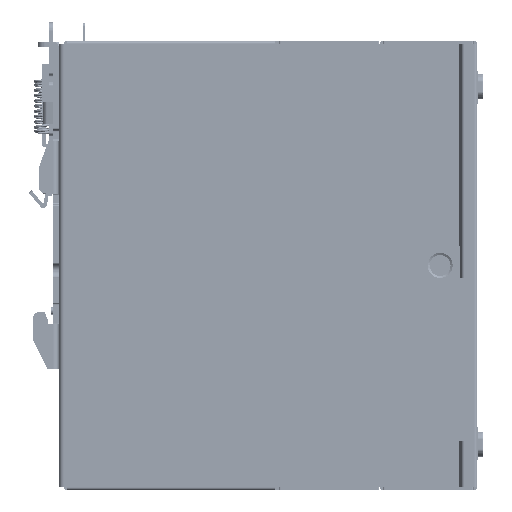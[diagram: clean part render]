
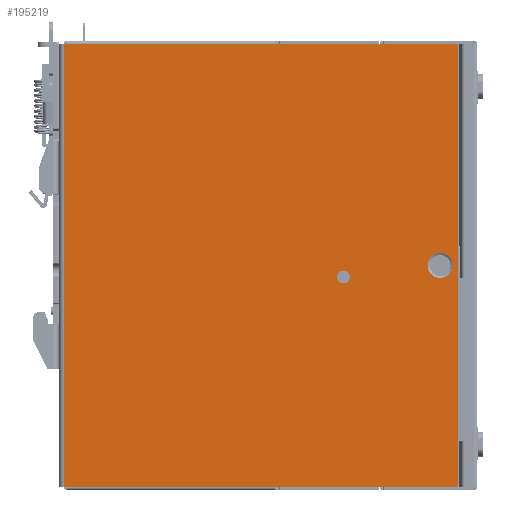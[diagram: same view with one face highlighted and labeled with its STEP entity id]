
A CAD part, front view. The second image highlights one B-rep face of the part: STEP entity #195219.
In plain terms, the highlighted planar face has unit normal (0, -1, 0).
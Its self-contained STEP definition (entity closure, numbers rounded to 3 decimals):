
#36477=DIRECTION('',(-1.,0.,0.));
#36478=VECTOR('',#36477,107.5);
#36479=CARTESIAN_POINT('',(107.5,18.,0.));
#36480=LINE('',#36479,#36478);
#42924=DIRECTION('',(0.,0.,-1.));
#42925=VECTOR('',#42924,122.);
#42926=CARTESIAN_POINT('',(0.,18.,0.));
#42927=LINE('',#42926,#42925);
#43299=CARTESIAN_POINT('',(107.5,18.,-1.));
#43300=DIRECTION('',(0.,1.,0.));
#43301=DIRECTION('',(0.,0.,1.));
#43302=AXIS2_PLACEMENT_3D('',#43299,#43300,#43301);
#43304=DIRECTION('',(0.,0.,-1.));
#43305=VECTOR('',#43304,120.);
#43306=CARTESIAN_POINT('',(108.5,18.,-1.));
#43307=LINE('',#43306,#43305);
#43308=CARTESIAN_POINT('',(107.5,18.,-121.));
#43309=DIRECTION('',(0.,1.,0.));
#43310=DIRECTION('',(1.,0.,0.));
#43311=AXIS2_PLACEMENT_3D('',#43308,#43309,#43310);
#43313=CARTESIAN_POINT('',(76.9,18.,-64.2));
#43314=DIRECTION('',(0.,1.,0.));
#43315=DIRECTION('',(1.,0.,0.));
#43316=AXIS2_PLACEMENT_3D('',#43313,#43314,#43315);
#43318=CARTESIAN_POINT('',(76.9,18.,-64.2));
#43319=DIRECTION('',(0.,1.,0.));
#43320=DIRECTION('',(-1.,0.,0.));
#43321=AXIS2_PLACEMENT_3D('',#43318,#43319,#43320);
#48449=DIRECTION('',(1.,0.,0.));
#48450=VECTOR('',#48449,107.5);
#48451=CARTESIAN_POINT('',(0.,18.,-122.));
#48452=LINE('',#48451,#48450);
#55200=CARTESIAN_POINT('',(103.5,18.,-61.));
#55201=DIRECTION('',(0.,1.,0.));
#55202=DIRECTION('',(1.,0.,0.));
#55203=AXIS2_PLACEMENT_3D('',#55200,#55201,#55202);
#55209=CARTESIAN_POINT('',(103.5,18.,-61.));
#55210=DIRECTION('',(0.,1.,0.));
#55211=DIRECTION('',(-1.,0.,0.));
#55212=AXIS2_PLACEMENT_3D('',#55209,#55210,#55211);
#104187=CARTESIAN_POINT('',(0.,18.,0.));
#104188=CARTESIAN_POINT('',(0.,18.,-122.));
#104189=VERTEX_POINT('',#104187);
#104190=VERTEX_POINT('',#104188);
#104191=CARTESIAN_POINT('',(107.5,18.,0.));
#104192=VERTEX_POINT('',#104191);
#104193=CARTESIAN_POINT('',(108.5,18.,-1.));
#104194=VERTEX_POINT('',#104193);
#104195=CARTESIAN_POINT('',(108.5,18.,-121.));
#104196=VERTEX_POINT('',#104195);
#104197=CARTESIAN_POINT('',(107.5,18.,-122.));
#104198=VERTEX_POINT('',#104197);
#104290=CARTESIAN_POINT('',(106.95,18.,-61.));
#104292=VERTEX_POINT('',#104290);
#104294=CARTESIAN_POINT('',(100.05,18.,-61.));
#104296=VERTEX_POINT('',#104294);
#104711=CARTESIAN_POINT('',(78.65,18.,-64.2));
#104712=CARTESIAN_POINT('',(75.15,18.,-64.2));
#104713=VERTEX_POINT('',#104711);
#104714=VERTEX_POINT('',#104712);
#195190=CARTESIAN_POINT('',(0.,18.,0.));
#195191=DIRECTION('',(0.,1.,0.));
#195192=DIRECTION('',(1.,0.,0.));
#195193=AXIS2_PLACEMENT_3D('',#195190,#195191,#195192);
#195194=PLANE('',#195193);
#195195=ORIENTED_EDGE('',*,*,#194222,.F.);
#195196=ORIENTED_EDGE('',*,*,#180533,.F.);
#195198=ORIENTED_EDGE('',*,*,#195197,.T.);
#195200=ORIENTED_EDGE('',*,*,#195199,.T.);
#195202=ORIENTED_EDGE('',*,*,#195201,.T.);
#195204=ORIENTED_EDGE('',*,*,#195203,.F.);
#195205=EDGE_LOOP('',(#195195,#195196,#195198,#195200,#195202,#195204));
#195206=FACE_OUTER_BOUND('',#195205,.F.);
#195208=ORIENTED_EDGE('',*,*,#195207,.F.);
#195210=ORIENTED_EDGE('',*,*,#195209,.F.);
#195211=EDGE_LOOP('',(#195208,#195210));
#195212=FACE_BOUND('',#195211,.F.);
#195214=ORIENTED_EDGE('',*,*,#195213,.F.);
#195216=ORIENTED_EDGE('',*,*,#195215,.F.);
#195217=EDGE_LOOP('',(#195214,#195216));
#195218=FACE_BOUND('',#195217,.F.);
#43303=CIRCLE('',#43302,1.);
#43312=CIRCLE('',#43311,1.);
#43317=CIRCLE('',#43316,1.75);
#43322=CIRCLE('',#43321,1.75);
#55204=CIRCLE('',#55203,3.45);
#55213=CIRCLE('',#55212,3.45);
#180533=EDGE_CURVE('',#104192,#104189,#36480,.T.);
#194222=EDGE_CURVE('',#104189,#104190,#42927,.T.);
#195197=EDGE_CURVE('',#104192,#104194,#43303,.T.);
#195199=EDGE_CURVE('',#104194,#104196,#43307,.T.);
#195201=EDGE_CURVE('',#104196,#104198,#43312,.T.);
#195203=EDGE_CURVE('',#104190,#104198,#48452,.T.);
#195207=EDGE_CURVE('',#104713,#104714,#43317,.T.);
#195209=EDGE_CURVE('',#104714,#104713,#43322,.T.);
#195213=EDGE_CURVE('',#104292,#104296,#55204,.T.);
#195215=EDGE_CURVE('',#104296,#104292,#55213,.T.);
#195219=ADVANCED_FACE('',(#195206,#195212,#195218),#195194,.F.);
